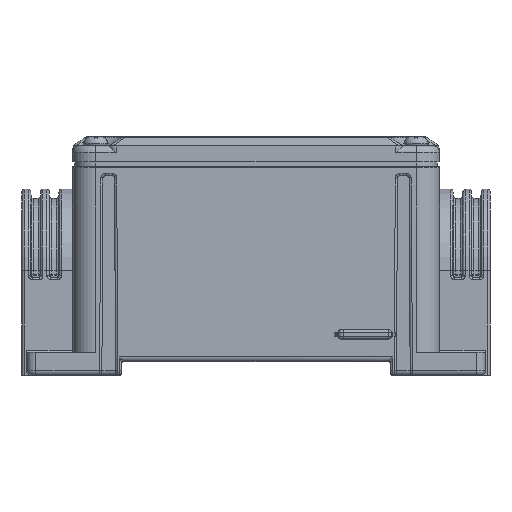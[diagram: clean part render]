
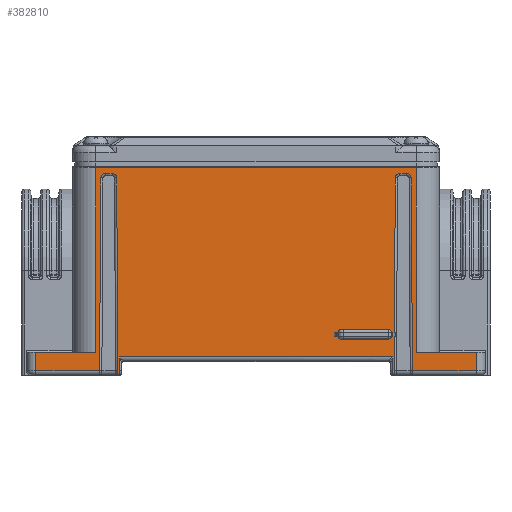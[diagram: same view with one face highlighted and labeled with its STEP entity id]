
A CAD part, front view. The second image highlights one B-rep face of the part: STEP entity #382810.
In plain terms, the highlighted planar face has unit normal (0, -1, 0) as drawn and (-1, 0, 0) by its records, which use the part's own axes.
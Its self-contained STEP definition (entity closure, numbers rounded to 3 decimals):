
#151180=CARTESIAN_POINT('',(7.5,6.157,
39.706));
#151190=VERTEX_POINT('',#151180);
#151360=CARTESIAN_POINT('',(7.5,7.147,40.69));
#151370=VERTEX_POINT('',#151360);
#151400=CARTESIAN_POINT('',(7.5,7.147,39.7));
#151410=DIRECTION('',(-1.,0.,0.));
#151420=DIRECTION('',(0.,0.,1.));
#151430=AXIS2_PLACEMENT_3D('',#151400,#151410,#151420);
#151440=CIRCLE('',#151430,0.99);
#151450=EDGE_CURVE('',#151190,#151370,#151440,.T.);
#155890=CARTESIAN_POINT('',(7.5,88.,-2.3));
#155900=VERTEX_POINT('',#155890);
#156240=CARTESIAN_POINT('',(7.5,72.853,40.69));
#156250=VERTEX_POINT('',#156240);
#156420=CARTESIAN_POINT('',(7.5,73.843,
39.706));
#156430=VERTEX_POINT('',#156420);
#156460=CARTESIAN_POINT('',(7.5,72.853,39.7));
#156470=DIRECTION('',(1.,0.,0.));
#156480=DIRECTION('',(0.,0.,-1.));
#156490=AXIS2_PLACEMENT_3D('',#156460,#156470,#156480);
#156500=CIRCLE('',#156490,0.99);
#156510=EDGE_CURVE('',#156430,#156250,#156500,.T.);
#162980=CARTESIAN_POINT('',(7.5,74.084,-2.3));
#162990=VERTEX_POINT('',#162980);
#163020=CARTESIAN_POINT('',(7.5,73.964,
18.704));
#163030=DIRECTION('',(0.,0.006,
-1.));
#163040=VECTOR('',#163030,1.);
#163050=LINE('',#163020,#163040);
#163060=EDGE_CURVE('',#156430,#162990,#163050,.T.);
#175420=CARTESIAN_POINT('',(7.5,5.1,41.9));
#175430=VERTEX_POINT('',#175420);
#190670=CARTESIAN_POINT('',(7.5,0.,41.9))
;
#190680=DIRECTION('',(0.,1.,0.));
#190690=VECTOR('',#190680,1.);
#190700=LINE('',#190670,#190690);
#190710=CARTESIAN_POINT('',(7.5,74.9,41.9));
#190720=VERTEX_POINT('',#190710);
#190730=EDGE_CURVE('',#175430,#190720,#190700,.T.);
#347960=CARTESIAN_POINT('',(7.5,-8.,1.7));
#347970=VERTEX_POINT('',#347960);
#348000=CARTESIAN_POINT('',(7.5,0.,1.7));
#348010=DIRECTION('',(0.,1.,0.));
#348020=VECTOR('',#348010,1.);
#348030=LINE('',#348000,#348020);
#348040=CARTESIAN_POINT('',(7.5,5.1,1.7));
#348050=VERTEX_POINT('',#348040);
#348060=EDGE_CURVE('',#347970,#348050,#348030,.T.);
#363560=CARTESIAN_POINT('',(7.5,74.9,-3.3));
#363570=DIRECTION('',(0.,0.,1.));
#363580=VECTOR('',#363570,1.);
#363590=LINE('',#363560,#363580);
#363600=CARTESIAN_POINT('',(7.5,74.9,1.7));
#363610=VERTEX_POINT('',#363600);
#363620=EDGE_CURVE('',#363610,#190720,#363590,.T.);
#381320=CARTESIAN_POINT('',(7.5,-10.,-3.3));
#381330=DIRECTION('',(-1.,0.,0.));
#381340=DIRECTION('',(0.,1.,0.));
#381350=AXIS2_PLACEMENT_3D('',#381320,#381330,#381340);
#381360=PLANE('',#381350);
#381370=CARTESIAN_POINT('',(7.5,0.,-2.3));
#381380=DIRECTION('',(0.,-1.,0.));
#381390=VECTOR('',#381380,1.);
#381400=LINE('',#381370,#381390);
#381410=CARTESIAN_POINT('',(7.5,70.116,
-2.3));
#381420=VERTEX_POINT('',#381410);
#381430=CARTESIAN_POINT('',(7.5,69.8,-2.3));
#381440=VERTEX_POINT('',#381430);
#381450=EDGE_CURVE('',#381420,#381440,#381400,.T.);
#381460=ORIENTED_EDGE('',*,*,#381450,.T.);
#381470=CARTESIAN_POINT('',(7.5,70.357,
39.706));
#381480=DIRECTION('',(0.,0.006,
1.));
#381490=VECTOR('',#381480,1.);
#381500=LINE('',#381470,#381490);
#381510=CARTESIAN_POINT('',(7.5,70.357,
39.706));
#381520=VERTEX_POINT('',#381510);
#381530=EDGE_CURVE('',#381420,#381520,#381500,.T.);
#381540=ORIENTED_EDGE('',*,*,#381530,.F.);
#381550=CARTESIAN_POINT('',(7.5,71.347,39.7));
#381560=DIRECTION('',(1.,0.,0.));
#381570=DIRECTION('',(0.,0.,-1.));
#381580=AXIS2_PLACEMENT_3D('',#381550,#381560,#381570);
#381590=CIRCLE('',#381580,0.99);
#381600=CARTESIAN_POINT('',(7.5,71.347,40.69));
#381610=VERTEX_POINT('',#381600);
#381620=EDGE_CURVE('',#381610,#381520,#381590,.T.);
#381630=ORIENTED_EDGE('',*,*,#381620,.T.);
#381640=CARTESIAN_POINT('',(7.5,72.853,40.69));
#381650=DIRECTION('',(0.,1.,0.));
#381660=VECTOR('',#381650,1.);
#381670=LINE('',#381640,#381660);
#381680=EDGE_CURVE('',#381610,#156250,#381670,.T.);
#381690=ORIENTED_EDGE('',*,*,#381680,.F.);
#381700=ORIENTED_EDGE('',*,*,#156510,.T.);
#381710=ORIENTED_EDGE('',*,*,#163060,.F.);
#381720=CARTESIAN_POINT('',(7.5,0.,-2.3));
#381730=DIRECTION('',(0.,-1.,0.));
#381740=VECTOR('',#381730,1.);
#381750=LINE('',#381720,#381740);
#381760=EDGE_CURVE('',#155900,#162990,#381750,.T.);
#381770=ORIENTED_EDGE('',*,*,#381760,.T.);
#381780=CARTESIAN_POINT('',(7.5,88.,-3.3));
#381790=DIRECTION('',(0.,0.,1.));
#381800=VECTOR('',#381790,1.);
#381810=LINE('',#381780,#381800);
#381820=CARTESIAN_POINT('',(7.5,88.,1.7));
#381830=VERTEX_POINT('',#381820);
#381840=EDGE_CURVE('',#155900,#381830,#381810,.T.);
#381850=ORIENTED_EDGE('',*,*,#381840,.F.);
#381860=CARTESIAN_POINT('',(7.5,0.,1.7));
#381870=DIRECTION('',(0.,1.,0.));
#381880=VECTOR('',#381870,1.);
#381890=LINE('',#381860,#381880);
#381900=EDGE_CURVE('',#363610,#381830,#381890,.T.);
#381910=ORIENTED_EDGE('',*,*,#381900,.T.);
#381920=ORIENTED_EDGE('',*,*,#363620,.F.);
#381930=ORIENTED_EDGE('',*,*,#190730,.T.);
#381940=CARTESIAN_POINT('',(7.5,5.1,-3.3));
#381950=DIRECTION('',(0.,0.,1.));
#381960=VECTOR('',#381950,1.);
#381970=LINE('',#381940,#381960);
#381980=EDGE_CURVE('',#348050,#175430,#381970,.T.);
#381990=ORIENTED_EDGE('',*,*,#381980,.T.);
#382000=ORIENTED_EDGE('',*,*,#348060,.T.);
#382010=CARTESIAN_POINT('',(7.5,-8.,-3.3));
#382020=DIRECTION('',(0.,0.,-1.));
#382030=VECTOR('',#382020,1.);
#382040=LINE('',#382010,#382030);
#382050=CARTESIAN_POINT('',(7.5,-8.,-2.3));
#382060=VERTEX_POINT('',#382050);
#382070=EDGE_CURVE('',#347970,#382060,#382040,.T.);
#382080=ORIENTED_EDGE('',*,*,#382070,.F.);
#382090=CARTESIAN_POINT('',(7.5,0.,-2.3));
#382100=DIRECTION('',(0.,1.,0.));
#382110=VECTOR('',#382100,1.);
#382120=LINE('',#382090,#382110);
#382130=CARTESIAN_POINT('',(7.5,5.916,-2.3));
#382140=VERTEX_POINT('',#382130);
#382150=EDGE_CURVE('',#382060,#382140,#382120,.T.);
#382160=ORIENTED_EDGE('',*,*,#382150,.F.);
#382170=CARTESIAN_POINT('',(7.5,6.157,
39.706));
#382180=DIRECTION('',(0.,0.006,
1.));
#382190=VECTOR('',#382180,1.);
#382200=LINE('',#382170,#382190);
#382210=EDGE_CURVE('',#382140,#151190,#382200,.T.);
#382220=ORIENTED_EDGE('',*,*,#382210,.F.);
#382230=ORIENTED_EDGE('',*,*,#151450,.F.);
#382240=CARTESIAN_POINT('',(7.5,8.653,40.69));
#382250=DIRECTION('',(0.,1.,0.));
#382260=VECTOR('',#382250,1.);
#382270=LINE('',#382240,#382260);
#382280=CARTESIAN_POINT('',(7.5,8.653,40.69));
#382290=VERTEX_POINT('',#382280);
#382300=EDGE_CURVE('',#151370,#382290,#382270,.T.);
#382310=ORIENTED_EDGE('',*,*,#382300,.F.);
#382320=CARTESIAN_POINT('',(7.5,8.653,39.7));
#382330=DIRECTION('',(-1.,0.,0.));
#382340=DIRECTION('',(0.,0.,1.));
#382350=AXIS2_PLACEMENT_3D('',#382320,#382330,#382340);
#382360=CIRCLE('',#382350,0.99);
#382370=CARTESIAN_POINT('',(7.5,9.643,
39.706));
#382380=VERTEX_POINT('',#382370);
#382390=EDGE_CURVE('',#382290,#382380,#382360,.T.);
#382400=ORIENTED_EDGE('',*,*,#382390,.F.);
#382410=CARTESIAN_POINT('',(7.5,9.764,
18.704));
#382420=DIRECTION('',(0.,0.006,
-1.));
#382430=VECTOR('',#382420,1.);
#382440=LINE('',#382410,#382430);
#382450=CARTESIAN_POINT('',(7.5,9.884,-2.3));
#382460=VERTEX_POINT('',#382450);
#382470=EDGE_CURVE('',#382380,#382460,#382440,.T.);
#382480=ORIENTED_EDGE('',*,*,#382470,.F.);
#382490=CARTESIAN_POINT('',(7.5,0.,-2.3));
#382500=DIRECTION('',(0.,1.,0.));
#382510=VECTOR('',#382500,1.);
#382520=LINE('',#382490,#382510);
#382530=CARTESIAN_POINT('',(7.5,10.2,-2.3));
#382540=VERTEX_POINT('',#382530);
#382550=EDGE_CURVE('',#382460,#382540,#382520,.T.);
#382560=ORIENTED_EDGE('',*,*,#382550,.F.);
#382570=CARTESIAN_POINT('',(7.5,10.2,0.));
#382580=DIRECTION('',(0.,0.,1.));
#382590=VECTOR('',#382580,1.);
#382600=LINE('',#382570,#382590);
#382610=CARTESIAN_POINT('',(7.5,10.2,0.7));
#382620=VERTEX_POINT('',#382610);
#382630=EDGE_CURVE('',#382540,#382620,#382600,.T.);
#382640=ORIENTED_EDGE('',*,*,#382630,.F.);
#382650=CARTESIAN_POINT('',(7.5,0.,0.7))
;
#382660=DIRECTION('',(0.,-1.,0.));
#382670=VECTOR('',#382660,1.);
#382680=LINE('',#382650,#382670);
#382690=CARTESIAN_POINT('',(7.5,69.8,0.7));
#382700=VERTEX_POINT('',#382690);
#382710=EDGE_CURVE('',#382700,#382620,#382680,.T.);
#382720=ORIENTED_EDGE('',*,*,#382710,.T.);
#382730=CARTESIAN_POINT('',(7.5,69.8,0.))
;
#382740=DIRECTION('',(0.,0.,-1.));
#382750=VECTOR('',#382740,1.);
#382760=LINE('',#382730,#382750);
#382770=EDGE_CURVE('',#382700,#381440,#382760,.T.);
#382780=ORIENTED_EDGE('',*,*,#382770,.F.);
#382790=EDGE_LOOP('',(#382780,#382720,#382640,#382560,#382480,#382400,
#382310,#382230,#382220,#382160,#382080,#382000,#381990,#381930,#381920,
#381910,#381850,#381770,#381710,#381700,#381690,#381630,#381540,#381460)
);
#382800=FACE_OUTER_BOUND('',#382790,.T.);
#382810=ADVANCED_FACE('',(#382800),#381360,.T.);
